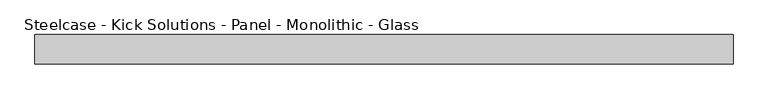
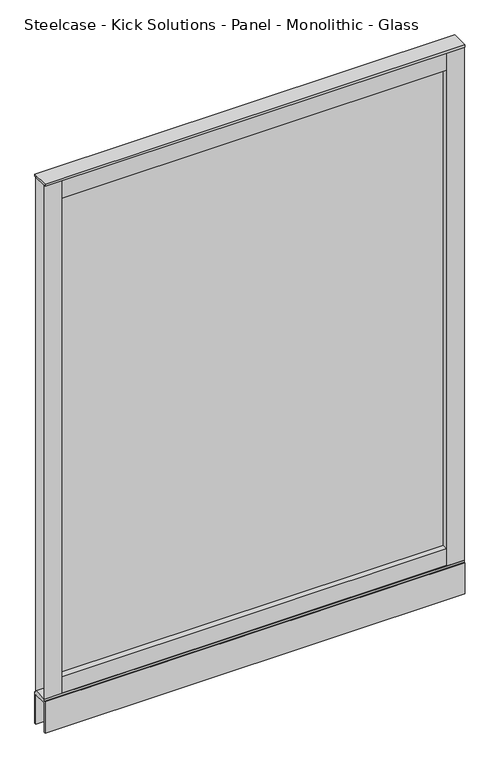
"""IFC4 building model written with IfcOpenShell, lengths in millimetres: furniture geometry, Steelcase - Kick Solutions - Panel - Monolithic - Glass : 66H x 48W."""

from ifc_helpers import new_model, si_unit, frame, origin, place, context, project, spatial, polyline, outline, extrude, source, transform, mapped, element, save


def steelcase_kick_solutions_panel_monolithic_glass_f4cd88e0(model_context):
    return source(origin(), model_context, "Body", "SweptSolid", [
        extrude(outline(polyline([(1168.4006661, -5.08), (1168.4006661, -45.7200015), (50.8006646, -45.7200015), (50.8006646, -5.08), (1168.4006661, -5.08)])), frame((0.0, 0.0, 101.7169049), z_axis=(0.0, 0.0, 1.0), x_axis=(1.0, 0.0, 0.0)), (0.0, 0.0, 1.0), 50.6830951),
        extrude(outline(polyline([(1168.4006661, -5.08), (1168.4006661, -45.7200015), (50.8006646, -45.7200015), (50.8006646, -5.08), (1168.4006661, -5.08)])), frame((0.0, 0.0, 1619.25), z_axis=(0.0, 0.0, 1.0), x_axis=(1.0, 0.0, 0.0)), (0.0, 0.0, 1.0), 57.15),
        extrude(outline(polyline([(50.8006646, -3.1743148), (50.8006646, -47.6243142), (0.0, -47.6243142), (0.0, -45.7200015), (47.7526646, -45.7200015), (47.7526646, -5.08), (0.0, -5.08), (0.0, -3.1743148), (50.8006646, -3.1743148)])), frame((0.0, 0.0, 101.7169049), z_axis=(0.0, 0.0, 1.0), x_axis=(1.0, 0.0, 0.0)), (0.0, 0.0, 1.0), 1574.6830951),
        extrude(outline(polyline([(1168.4006661, -3.1743148), (1219.2, -3.1743148), (1219.2, -5.08), (1171.4486661, -5.08), (1171.4486661, -45.7200015), (1219.2, -45.7200015), (1219.2, -47.6243142), (1168.4006661, -47.6243142), (1168.4006661, -3.1743148)])), frame((0.0, 0.0, 101.7169049), z_axis=(0.0, 0.0, 1.0), x_axis=(1.0, 0.0, 0.0)), (0.0, 0.0, 1.0), 1574.6830951),
        extrude(outline(polyline([(1168.4006661, -28.422537), (50.8006646, -28.422537), (50.8006646, -25.4), (1168.4006661, -25.4), (1168.4006661, -28.422537)])), frame((0.0, 0.0, 152.4), z_axis=(0.0, 0.0, 1.0), x_axis=(1.0, 0.0, 0.0)), (0.0, 0.0, 1.0), 1466.85),
        extrude(outline(polyline([(1219.2, 0.0), (1219.2, -50.8000015), (0.0, -50.8000015), (0.0, 0.0), (1219.2, 0.0)])), frame((0.0, 0.0, 1676.4), z_axis=(0.0, 0.0, 1.0), x_axis=(1.0, 0.0, 0.0)), (0.0, 0.0, 1.0), 6.35),
        extrude(outline(polyline([(0.0, 0.0), (-5.08, 0.0), (-5.08, 90.2869018), (-45.7200015, 90.2869018), (-45.7200015, 0.0), (-50.8000015, 0.0), (-50.8000015, 95.3669018), (-47.6243142, 95.3669018), (-47.6243142, 101.7169049), (-3.1743148, 101.7169049), (-3.1743148, 95.3669018), (0.0, 95.3669018), (0.0, 0.0)])), frame((0.0, 0.0, 0.0), z_axis=(1.0, 0.0, 0.0), x_axis=(0.0, 1.0, 0.0)), (0.0, 0.0, 1.0), 1219.2),
    ])


if __name__ == "__main__":
    model = new_model("IFC4")
    model_context = context("Model", 3, world=origin())
    ifc_project = project(units=[si_unit("LENGTHUNIT", "METRE", prefix="MILLI")], contexts=[model_context])
    site = spatial("IfcSite", under=ifc_project)
    building = spatial("IfcBuilding", under=site)
    placement = place(None, origin())
    steelcase_kick_solutions_panel_monolithic_glass_shape = steelcase_kick_solutions_panel_monolithic_glass_f4cd88e0(model_context)
    element("IfcFurniture", 1, ObjectType="Steelcase - Kick Solutions - Panel - Monolithic - Glass : 66H x 48W", at=placement, inside=building, context=model_context, shape_type="MappedRepresentation", body=[
        mapped(steelcase_kick_solutions_panel_monolithic_glass_shape, transform((0.0, 0.0, 0.0), x_axis=(1.0, 0.0, 0.0), y_axis=(0.0, 1.0, 0.0), z_axis=(0.0, 0.0, 1.0))),
    ])
    save(model, "model.ifc")
